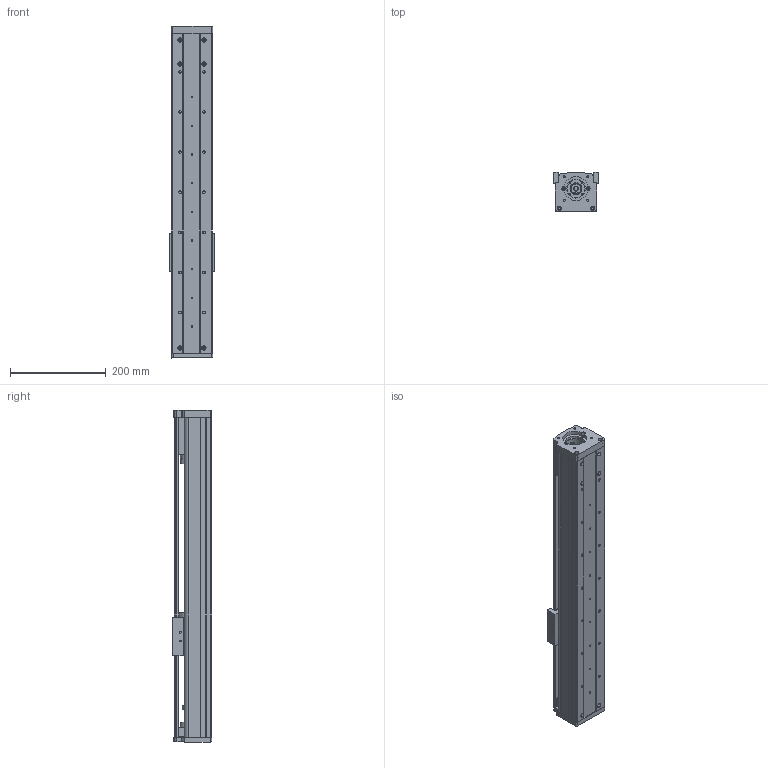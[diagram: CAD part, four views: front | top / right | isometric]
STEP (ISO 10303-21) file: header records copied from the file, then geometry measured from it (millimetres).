
FILE_DESCRIPTION (( 'STEP AP203' ), '1' );
FILE_NAME ('CF86-P450.STEP', '2016-02-22T05:48:03', ( 'Sky123.Org' ), ( 'Sky123.Org' ), 'SwSTEP 2.0', 'SolidWorks 2015', '' );
FILE_SCHEMA (( 'CONFIG_CONTROL_DESIGN' ));
Length unit declared in the file: millimetre
Products named in the file (18): 坶踡蹟譫M12-1; EGW15CA賑輸; deep groove ball bearings gb_Rolling bearings 6001 GB 276-94; SFU1610-P420幗紩佪裝; CF86賑輸; SFU1610ĸ; 癹弇羲壽; 滅袉蝶菜; 86-60侜督萇儂釱; 01 86嘐隅釱; 86耜啣; CF86-P450; 02 86盓傅釱; 86-P420裔啣; angular contact ball bearings gb_Rolling bearings S7001 GB 292-94; 86-P420臏倰第; 95粣創裔啣; EGR15-P420絳寢
Assembly tree (19 placements, depth 2):
  CF86-P450
    86耜啣
    86-P420裔啣
    86-P420臏倰第
    EGR15-P420絳寢
    EGW15CA賑輸
    SFU1610-P420幗紩佪裝
    SFU1610ĸ
    滅袉蝶菜  x2
    01 86嘐隅釱
    02 86盓傅釱
    angular contact ball bearings gb_Rolling bearings S7001 GB 292-94  x2
    95粣創裔啣
    坶踡蹟譫M12-1
    deep groove ball bearings gb_Rolling bearings 6001 GB 276-94
    CF86賑輸
    癹弇羲壽
    86-60侜督萇儂釱
Bounding box: 94 x 82.35 x 695 mm (x, y, z)
Volume: 1946827.1 mm3; surface area: 680212.6 mm2
Topology: 19 solids, 19 shells, 1280 faces, 4062 edges, 2715 vertices
Faces by surface type: cylinder 666, plane 363, torus 159, sphere 84, bspline 4, cone 4
Entity records: 70116 total; most frequent: CARTESIAN_POINT 37814, ORIENTED_EDGE 6768, DIRECTION 6092, EDGE_CURVE 3384, AXIS2_PLACEMENT_3D 2390, VERTEX_POINT 2258, EDGE_LOOP 1420, LINE 1312
